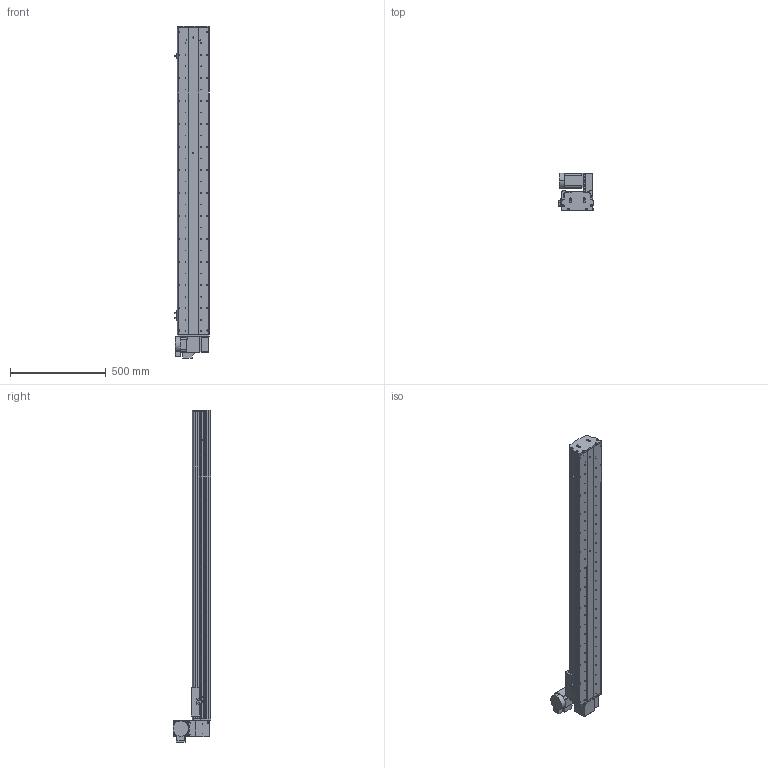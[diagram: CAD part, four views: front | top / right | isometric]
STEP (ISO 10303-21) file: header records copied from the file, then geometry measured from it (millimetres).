
FILE_DESCRIPTION (( 'STEP AP214' ), '1' );
FILE_NAME ('KSD165B-S1350-MRU-CM.STEP', '2017-10-17T02:47:30', ( '微软用户' ), ( '微软中国' ), 'SwSTEP 2.0', 'SolidWorks 2014', '' );
FILE_SCHEMA (( 'AUTOMOTIVE_DESIGN' ));
Length unit declared in the file: millimetre
Products named in the file (18): KSD165模组-防尘板支撑座1; KSD165模组-同步带滑动座-最新版; KSD165B-S1350-MRU-CM; 130宽模组马达安装板连板上下折丝杆同步带; 130宽模组保护罩上下左右折-同步带; HTPA26S5M250-A-H8 750W萇儂蚚; HTPA26S5M250-A-H8 400W萇儂蚚 ; KSD165模组-同步带防尘盖1-1350行程; KSD165模组同步带底板-1350行程; 拸秶雄ん750W侜督萇儂; 165宽马达安装板同步带右; U倰嫖萇假蚾璃; U倰嫖萇EEㄜSX672; 覜茼え68遵圉猾敕; KSD165模组-同步带-防撞垫2; KSD165模组同步带-防撞垫1; KSD165耀郪-ヶ傷啣1-肮祭湍; KSD165模组-后端板1-同步带
Assembly tree (21 placements, depth 2):
  KSD165B-S1350-MRU-CM
    KSD165模组-同步带滑动座-最新版
    KSD165模组-防尘板支撑座1
    KSD165模组-后端板1-同步带
    KSD165耀郪-ヶ傷啣1-肮祭湍
    KSD165模组同步带-防撞垫1
    KSD165模组-同步带-防撞垫2
    覜茼え68遵圉猾敕
    U倰嫖萇EEㄜSX672  x3
    U倰嫖萇假蚾璃  x3
    165宽马达安装板同步带右
    拸秶雄ん750W侜督萇儂
    KSD165模组同步带底板-1350行程
    KSD165模组-同步带防尘盖1-1350行程
    HTPA26S5M250-A-H8 400W萇儂蚚 
    HTPA26S5M250-A-H8 750W萇儂蚚
    130宽模组保护罩上下左右折-同步带
    130宽模组马达安装板连板上下折丝杆同步带
Bounding box: 178.7 x 198 x 1730.5 mm (x, y, z)
Volume: 9507394.7 mm3; surface area: 2218340.9 mm2
Topology: 22 solids, 22 shells, 2059 faces, 5816 edges, 3798 vertices
Faces by surface type: cylinder 1335, plane 608, cone 116
Entity records: 67526 total; most frequent: CARTESIAN_POINT 13795, DIRECTION 11038, ORIENTED_EDGE 10284, EDGE_CURVE 5142, AXIS2_PLACEMENT_3D 4335, VERTEX_POINT 3390, CIRCLE 2472, LINE 2368
